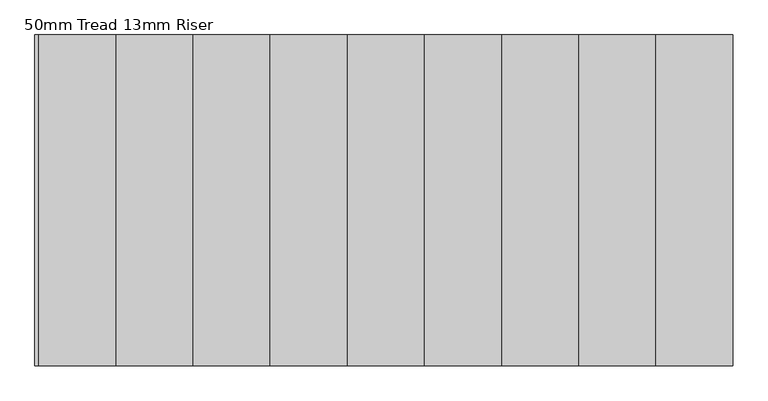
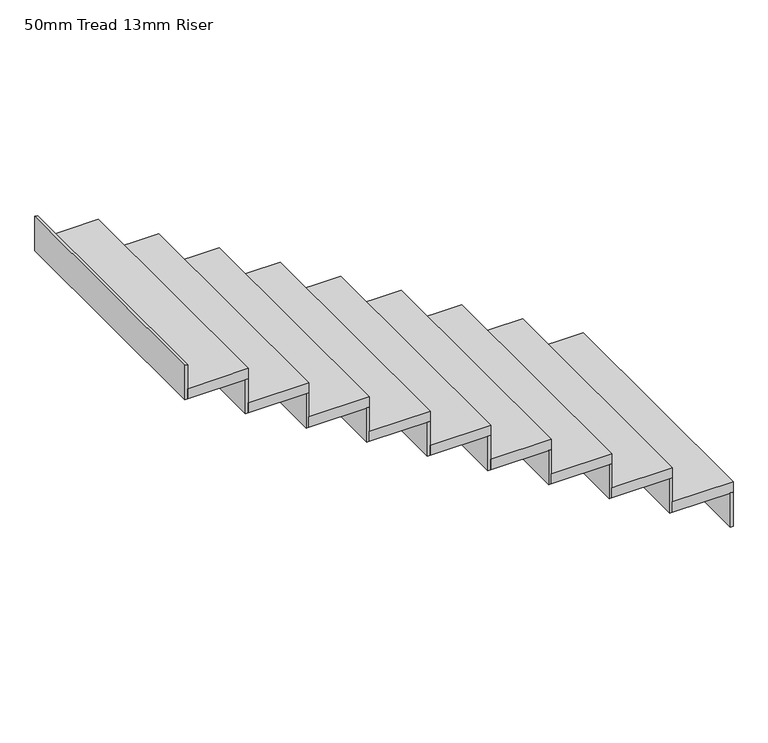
"""IFC4 building model written with IfcOpenShell, lengths in millimetres: stair flight geometry, 50mm Tread 13mm Riser."""

from ifc_helpers import new_model, si_unit, frame, origin, place, context, project, spatial, polyline, outline, extrude, source, transform, mapped, element, save


def stair_flight_50mm_tread_13mm_riser_6543d562(model_context):
    return source(origin(), model_context, "Body", "SweptSolid", [
        extrude(outline(polyline([(-84811.5398328, 11339.2777512), (-84799.0398328, 11339.2777512), (-84799.0398328, 10139.2777512), (-84811.5398328, 10139.2777512), (-84811.5398328, 11339.2777512)])), frame((0.0, 0.0, 47632.1765531), z_axis=(0.0, 0.0, 1.0), x_axis=(1.0, 0.0, 0.0)), (0.0, 0.0, 1.0), 167.2465025),
        extrude(outline(polyline([(-85079.0398328, 10139.2777512), (-85079.0398328, 11339.2777512), (-84799.0398328, 11339.2777512), (-84799.0398328, 10139.2777512), (-85079.0398328, 10139.2777512)])), frame((0.0, 0.0, 47799.4230556), z_axis=(0.0, 0.0, 1.0), x_axis=(1.0, 0.0, 0.0)), (0.0, 0.0, 1.0), 50.0),
        extrude(outline(polyline([(-85091.5398328, 11339.2777512), (-85079.0398328, 11339.2777512), (-85079.0398328, 10139.2777512), (-85091.5398328, 10139.2777512), (-85091.5398328, 11339.2777512)])), frame((0.0, 0.0, 47799.4230556), z_axis=(0.0, 0.0, 1.0), x_axis=(1.0, 0.0, 0.0)), (0.0, 0.0, 1.0), 167.2465025),
        extrude(outline(polyline([(-85359.0398328, 10139.2777512), (-85359.0398328, 11339.2777512), (-85079.0398328, 11339.2777512), (-85079.0398328, 10139.2777512), (-85359.0398328, 10139.2777512)])), frame((0.0, 0.0, 47966.6695582), z_axis=(0.0, 0.0, 1.0), x_axis=(1.0, 0.0, 0.0)), (0.0, 0.0, 1.0), 50.0),
        extrude(outline(polyline([(-85371.5398328, 11339.2777512), (-85359.0398328, 11339.2777512), (-85359.0398328, 10139.2777512), (-85371.5398328, 10139.2777512), (-85371.5398328, 11339.2777512)])), frame((0.0, 0.0, 47966.6695582), z_axis=(0.0, 0.0, 1.0), x_axis=(1.0, 0.0, 0.0)), (0.0, 0.0, 1.0), 167.2465025),
        extrude(outline(polyline([(-85639.0398328, 10139.2777512), (-85639.0398328, 11339.2777512), (-85359.0398328, 11339.2777512), (-85359.0398328, 10139.2777512), (-85639.0398328, 10139.2777512)])), frame((0.0, 0.0, 48133.9160607), z_axis=(0.0, 0.0, 1.0), x_axis=(1.0, 0.0, 0.0)), (0.0, 0.0, 1.0), 50.0),
        extrude(outline(polyline([(-85651.5398328, 11339.2777512), (-85639.0398328, 11339.2777512), (-85639.0398328, 10139.2777512), (-85651.5398328, 10139.2777512), (-85651.5398328, 11339.2777512)])), frame((0.0, 0.0, 48133.9160607), z_axis=(0.0, 0.0, 1.0), x_axis=(1.0, 0.0, 0.0)), (0.0, 0.0, 1.0), 167.2465025),
        extrude(outline(polyline([(-85919.0398328, 10139.2777512), (-85919.0398328, 11339.2777512), (-85639.0398328, 11339.2777512), (-85639.0398328, 10139.2777512), (-85919.0398328, 10139.2777512)])), frame((0.0, 0.0, 48301.1625632), z_axis=(0.0, 0.0, 1.0), x_axis=(1.0, 0.0, 0.0)), (0.0, 0.0, 1.0), 50.0),
        extrude(outline(polyline([(-85931.5398328, 11339.2777512), (-85919.0398328, 11339.2777512), (-85919.0398328, 10139.2777512), (-85931.5398328, 10139.2777512), (-85931.5398328, 11339.2777512)])), frame((0.0, 0.0, 48301.1625632), z_axis=(0.0, 0.0, 1.0), x_axis=(1.0, 0.0, 0.0)), (0.0, 0.0, 1.0), 167.2465025),
        extrude(outline(polyline([(-86199.0398328, 10139.2777512), (-86199.0398328, 11339.2777512), (-85919.0398328, 11339.2777512), (-85919.0398328, 10139.2777512), (-86199.0398328, 10139.2777512)])), frame((0.0, 0.0, 48468.4090658), z_axis=(0.0, 0.0, 1.0), x_axis=(1.0, 0.0, 0.0)), (0.0, 0.0, 1.0), 50.0),
        extrude(outline(polyline([(-86211.5398328, 11339.2777512), (-86199.0398328, 11339.2777512), (-86199.0398328, 10139.2777512), (-86211.5398328, 10139.2777512), (-86211.5398328, 11339.2777512)])), frame((0.0, 0.0, 48468.4090658), z_axis=(0.0, 0.0, 1.0), x_axis=(1.0, 0.0, 0.0)), (0.0, 0.0, 1.0), 167.2465025),
        extrude(outline(polyline([(-86479.0398328, 10139.2777512), (-86479.0398328, 11339.2777512), (-86199.0398328, 11339.2777512), (-86199.0398328, 10139.2777512), (-86479.0398328, 10139.2777512)])), frame((0.0, 0.0, 48635.6555683), z_axis=(0.0, 0.0, 1.0), x_axis=(1.0, 0.0, 0.0)), (0.0, 0.0, 1.0), 50.0),
        extrude(outline(polyline([(-86491.5398328, 11339.2777512), (-86479.0398328, 11339.2777512), (-86479.0398328, 10139.2777512), (-86491.5398328, 10139.2777512), (-86491.5398328, 11339.2777512)])), frame((0.0, 0.0, 48635.6555683), z_axis=(0.0, 0.0, 1.0), x_axis=(1.0, 0.0, 0.0)), (0.0, 0.0, 1.0), 167.2465025),
        extrude(outline(polyline([(-86759.0398328, 10139.2777512), (-86759.0398328, 11339.2777512), (-86479.0398328, 11339.2777512), (-86479.0398328, 10139.2777512), (-86759.0398328, 10139.2777512)])), frame((0.0, 0.0, 48802.9020708), z_axis=(0.0, 0.0, 1.0), x_axis=(1.0, 0.0, 0.0)), (0.0, 0.0, 1.0), 50.0),
        extrude(outline(polyline([(-86771.5398328, 11339.2777512), (-86759.0398328, 11339.2777512), (-86759.0398328, 10139.2777512), (-86771.5398328, 10139.2777512), (-86771.5398328, 11339.2777512)])), frame((0.0, 0.0, 48802.9020708), z_axis=(0.0, 0.0, 1.0), x_axis=(1.0, 0.0, 0.0)), (0.0, 0.0, 1.0), 167.2465025),
        extrude(outline(polyline([(-87039.0398328, 10139.2777512), (-87039.0398328, 11339.2777512), (-86759.0398328, 11339.2777512), (-86759.0398328, 10139.2777512), (-87039.0398328, 10139.2777512)])), frame((0.0, 0.0, 48970.1485733), z_axis=(0.0, 0.0, 1.0), x_axis=(1.0, 0.0, 0.0)), (0.0, 0.0, 1.0), 50.0),
        extrude(outline(polyline([(-87051.5398328, 11339.2777512), (-87039.0398328, 11339.2777512), (-87039.0398328, 10139.2777512), (-87051.5398328, 10139.2777512), (-87051.5398328, 11339.2777512)])), frame((0.0, 0.0, 48970.1485733), z_axis=(0.0, 0.0, 1.0), x_axis=(1.0, 0.0, 0.0)), (0.0, 0.0, 1.0), 167.2465025),
        extrude(outline(polyline([(-87331.5398328, 11339.2777512), (-87319.0398328, 11339.2777512), (-87319.0398328, 10139.2777512), (-87331.5398328, 10139.2777512), (-87331.5398328, 11339.2777512)])), frame((0.0, 0.0, 49137.3950759), z_axis=(0.0, 0.0, 1.0), x_axis=(1.0, 0.0, 0.0)), (0.0, 0.0, 1.0), 167.2465025),
        extrude(outline(polyline([(-87319.0398328, 10139.2777512), (-87319.0398328, 11339.2777512), (-87039.0398328, 11339.2777512), (-87039.0398328, 10139.2777512), (-87319.0398328, 10139.2777512)])), frame((0.0, 0.0, 49137.3950759), z_axis=(0.0, 0.0, 1.0), x_axis=(1.0, 0.0, 0.0)), (0.0, 0.0, 1.0), 50.0),
    ])


if __name__ == "__main__":
    model = new_model("IFC4")
    model_context = context("Model", 3, world=origin())
    ifc_project = project(units=[si_unit("LENGTHUNIT", "METRE", prefix="MILLI")], contexts=[model_context])
    site = spatial("IfcSite", under=ifc_project)
    building = spatial("IfcBuilding", under=site)
    placement = place(None, origin())
    stair_flight_50mm_tread_13mm_riser_shape = stair_flight_50mm_tread_13mm_riser_6543d562(model_context)
    element("IfcStairFlight", 1, ObjectType="50mm Tread 13mm Riser", at=placement, inside=building, context=model_context, shape_type="MappedRepresentation", body=[
        mapped(stair_flight_50mm_tread_13mm_riser_shape, transform((0.0, 0.0, 0.0), x_axis=(1.0, 0.0, 0.0), y_axis=(0.0, 1.0, 0.0), z_axis=(0.0, 0.0, 1.0))),
    ])
    save(model, "model.ifc")
